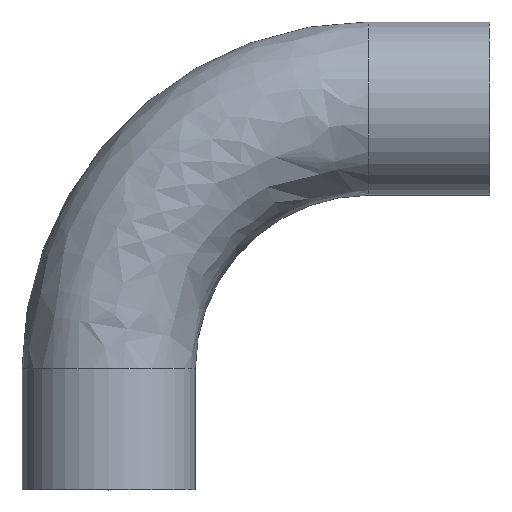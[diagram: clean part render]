
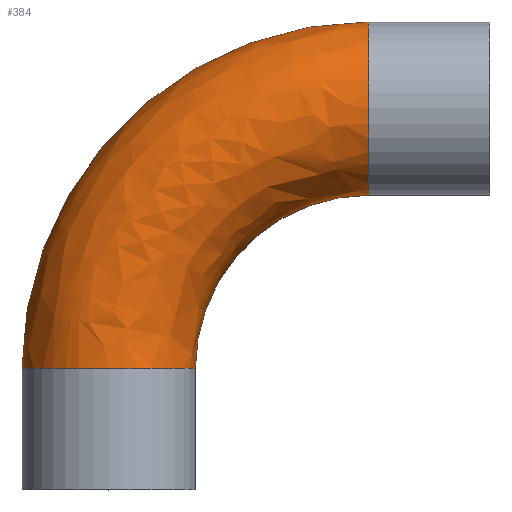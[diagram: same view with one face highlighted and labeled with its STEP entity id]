
A CAD part, top view. The second image highlights one B-rep face of the part: STEP entity #384.
In plain terms, the highlighted free-form (B-spline) face has degree [3, 3] with [4, 4] control points.
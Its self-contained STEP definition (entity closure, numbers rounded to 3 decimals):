
#5 =( BOUNDED_SURFACE ( )  B_SPLINE_SURFACE ( 3, 3, ( 
 ( #224, #345, #157, #418 ),
 ( #174, #120, #210, #212 ),
 ( #205, #323, #460, #359 ),
 ( #357, #385, #395, #392 ) ),
 .UNSPECIFIED., .F., .F., .F. ) 
 B_SPLINE_SURFACE_WITH_KNOTS ( ( 4, 4 ),
 ( 4, 4 ),
 ( 0., 1. ),
 ( 0., 1. ),
 .UNSPECIFIED. ) 
 GEOMETRIC_REPRESENTATION_ITEM ( )  RATIONAL_B_SPLINE_SURFACE ( (
 ( 1., 0.805, 0.805, 1.),
 ( 0.333, 0.268, 0.268, 0.333),
 ( 0.333, 0.268, 0.268, 0.333),
 ( 1., 0.805, 0.805, 1.) ) ) 
 REPRESENTATION_ITEM ( '' )  SURFACE ( )  );
#10 = EDGE_CURVE ( 'NONE', #320, #277, #410, .T. ) ;
#13 = ORIENTED_EDGE ( 'NONE', *, *, #79, .T. ) ;
#23 = ORIENTED_EDGE ( 'NONE', *, *, #446, .T. ) ;
#32 = AXIS2_PLACEMENT_3D ( 'NONE', #344, #340, #346 ) ;
#52 = VERTEX_POINT ( 'NONE', #451 ) ;
#79 = EDGE_CURVE ( 'NONE', #121, #277, #380, .T. ) ;
#91 = ORIENTED_EDGE ( 'NONE', *, *, #319, .T. ) ;
#99 = ORIENTED_EDGE ( 'NONE', *, *, #10, .F. ) ;
#105 = DIRECTION ( 'NONE',  ( -1., 0., 0. ) ) ;
#110 = DIRECTION ( 'NONE',  ( 0., 1., 0. ) ) ;
#120 = CARTESIAN_POINT ( 'NONE',  ( -31.75, 118.845, 63.5 ) ) ;
#121 = VERTEX_POINT ( 'NONE', #370 ) ;
#128 = CARTESIAN_POINT ( 'NONE',  ( -31.75, 44.45, 0. ) ) ;
#157 = CARTESIAN_POINT ( 'NONE',  ( 20.855, 171.45, 0. ) ) ;
#174 = CARTESIAN_POINT ( 'NONE',  ( -31.75, 44.45, 63.5 ) ) ;
#183 = DIRECTION ( 'NONE',  ( 0., 1., 0. ) ) ;
#195 = CARTESIAN_POINT ( 'NONE',  ( 0., 44.45, 0. ) ) ;
#197 = EDGE_LOOP ( 'NONE', ( #91, #23, #13, #99 ) ) ;
#205 = CARTESIAN_POINT ( 'NONE',  ( 31.75, 44.45, 63.5 ) ) ;
#207 = AXIS2_PLACEMENT_3D ( 'NONE', #195, #183, #303 ) ;
#210 = CARTESIAN_POINT ( 'NONE',  ( 20.855, 171.45, 63.5 ) ) ;
#212 = CARTESIAN_POINT ( 'NONE',  ( 95.25, 171.45, 63.5 ) ) ;
#224 = CARTESIAN_POINT ( 'NONE',  ( -31.75, 44.45, 0. ) ) ;
#225 = CIRCLE ( 'NONE', #207, 31.75 ) ;
#243 = CARTESIAN_POINT ( 'NONE',  ( 95.25, 44.45, 0. ) ) ;
#244 = DIRECTION ( 'NONE',  ( 0., 0., -1. ) ) ;
#247 = DIRECTION ( 'NONE',  ( -1., 0., 0. ) ) ;
#263 = FACE_OUTER_BOUND ( 'NONE', #197, .T. ) ;
#276 = AXIS2_PLACEMENT_3D ( 'NONE', #243, #244, #247 ) ;
#277 = VERTEX_POINT ( 'NONE', #445 ) ;
#287 = CARTESIAN_POINT ( 'NONE',  ( 95.25, 139.7, 0. ) ) ;
#303 = DIRECTION ( 'NONE',  ( -1., 0., 0. ) ) ;
#319 = EDGE_CURVE ( 'NONE', #320, #52, #225, .T. ) ;
#320 = VERTEX_POINT ( 'NONE', #128 ) ;
#323 = CARTESIAN_POINT ( 'NONE',  ( 31.75, 81.647, 63.5 ) ) ;
#340 = DIRECTION ( 'NONE',  ( 0., 0., -1. ) ) ;
#344 = CARTESIAN_POINT ( 'NONE',  ( 95.25, 44.45, 0. ) ) ;
#345 = CARTESIAN_POINT ( 'NONE',  ( -31.75, 118.845, 0. ) ) ;
#346 = DIRECTION ( 'NONE',  ( -1., 0., 0. ) ) ;
#357 = CARTESIAN_POINT ( 'NONE',  ( 31.75, 44.45, 0. ) ) ;
#359 = CARTESIAN_POINT ( 'NONE',  ( 95.25, 107.95, 63.5 ) ) ;
#370 = CARTESIAN_POINT ( 'NONE',  ( 95.25, 107.95, 0. ) ) ;
#380 = CIRCLE ( 'NONE', #419, 31.75 ) ;
#384 = ADVANCED_FACE ( 'NONE', ( #263 ), #5, .T. ) ;
#385 = CARTESIAN_POINT ( 'NONE',  ( 31.75, 81.647, 0. ) ) ;
#392 = CARTESIAN_POINT ( 'NONE',  ( 95.25, 107.95, 0. ) ) ;
#395 = CARTESIAN_POINT ( 'NONE',  ( 58.053, 107.95, 0. ) ) ;
#402 = CIRCLE ( 'NONE', #276, 63.5 ) ;
#410 = CIRCLE ( 'NONE', #32, 127. ) ;
#418 = CARTESIAN_POINT ( 'NONE',  ( 95.25, 171.45, 0. ) ) ;
#419 = AXIS2_PLACEMENT_3D ( 'NONE', #287, #105, #110 ) ;
#445 = CARTESIAN_POINT ( 'NONE',  ( 95.25, 171.45, 0. ) ) ;
#446 = EDGE_CURVE ( 'NONE', #52, #121, #402, .T. ) ;
#451 = CARTESIAN_POINT ( 'NONE',  ( 31.75, 44.45, 0. ) ) ;
#460 = CARTESIAN_POINT ( 'NONE',  ( 58.053, 107.95, 63.5 ) ) ;
